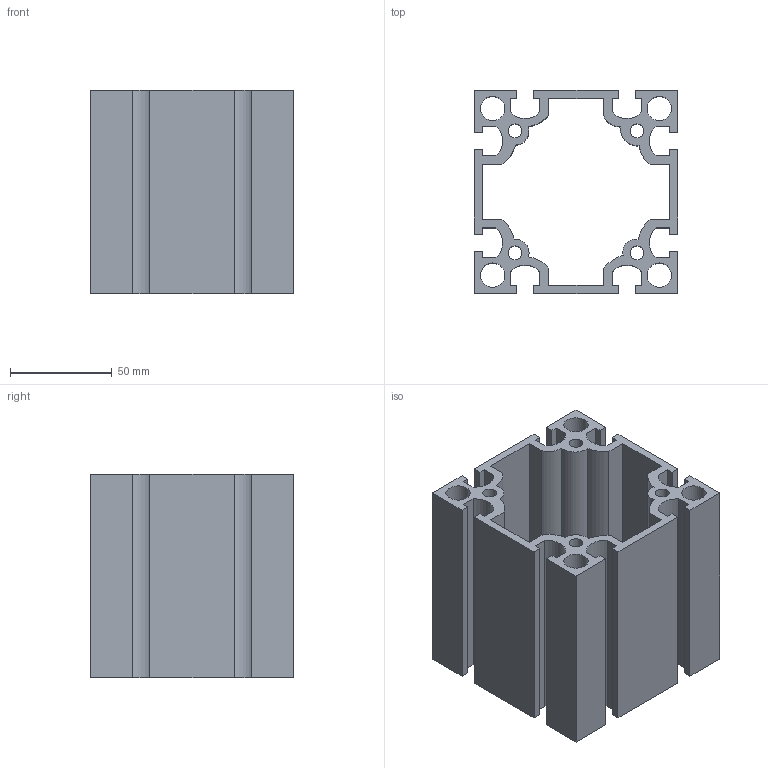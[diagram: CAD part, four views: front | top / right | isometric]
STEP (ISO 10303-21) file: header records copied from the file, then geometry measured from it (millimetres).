
FILE_DESCRIPTION(/* description */ ('Unknown'),/* implementation_level */ '2;1');
FILE_NAME(/* name */ 'NM100100',/* time_stamp */ '2026-08-31T13:17:59+08:00',/* author */ ('Unknown'),/* organization */ ('Unknown'),/* preprocessor_version */ 'ST-DEVELOPER v16.7',/* originating_system */ 'DEX',/* authorisation */ $);
FILE_SCHEMA (('AUTOMOTIVE_DESIGN {1 0 10303 214 3 1 1}'));
Length unit declared in the file: millimetre
Products named in the file (1): 100100
Bounding box: 100 x 100 x 100 mm (x, y, z)
Volume: 267827.4 mm3; surface area: 129981.7 mm2
Topology: 1 solids, 1 shells, 102 faces, 300 edges, 200 vertices
Faces by surface type: plane 74, cylinder 28
Full cylindrical faces by diameter (mm): 6.8 x4, 12 x4
Entity records: 3406 total; most frequent: CARTESIAN_POINT 595, ORIENTED_EDGE 584, DIRECTION 554, EDGE_CURVE 292, LINE 236, VECTOR 236, VERTEX_POINT 200, AXIS2_PLACEMENT_3D 159
